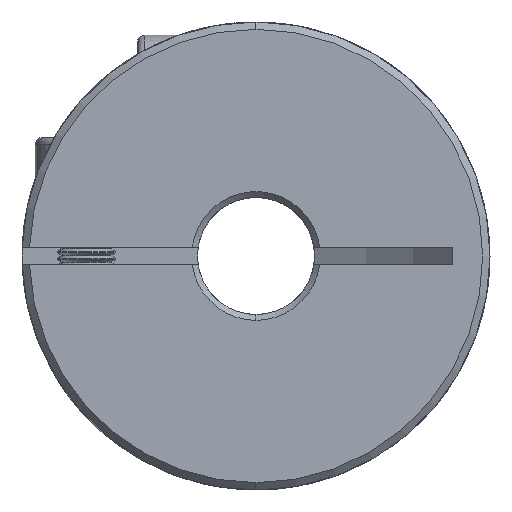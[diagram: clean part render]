
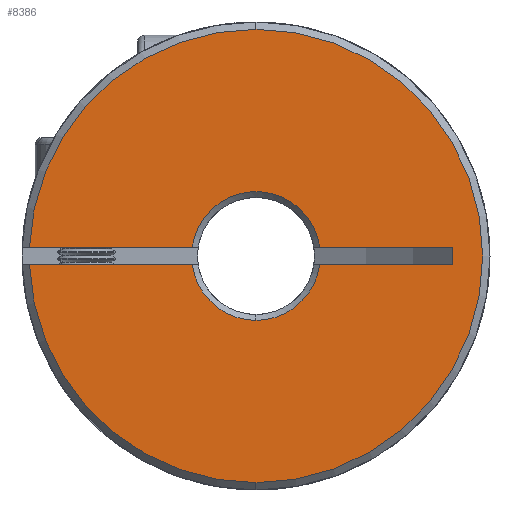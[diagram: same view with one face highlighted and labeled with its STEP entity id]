
A CAD part, front view. The second image highlights one B-rep face of the part: STEP entity #8386.
In plain terms, the highlighted planar face has unit normal (0, -1, 0).
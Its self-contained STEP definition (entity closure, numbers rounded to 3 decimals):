
#95 = VECTOR ( 'NONE', #9451, 1000. ) ;
#155 = CARTESIAN_POINT ( 'NONE',  ( 4.359, 0., 0.6 ) ) ;
#218 = LINE ( 'NONE', #6063, #95 ) ;
#245 = FACE_OUTER_BOUND ( 'NONE', #4812, .T. ) ;
#344 = AXIS2_PLACEMENT_3D ( 'NONE', #10908, #9160, #10826 ) ;
#388 = ORIENTED_EDGE ( 'NONE', *, *, #1886, .F. ) ;
#604 = VERTEX_POINT ( 'NONE', #6069 ) ;
#612 = CARTESIAN_POINT ( 'NONE',  ( 0., 0., 0. ) ) ;
#633 = DIRECTION ( 'NONE',  ( 1., 0., 0. ) ) ;
#771 = AXIS2_PLACEMENT_3D ( 'NONE', #10835, #7404, #8188 ) ;
#898 = VECTOR ( 'NONE', #633, 1000. ) ;
#946 = DIRECTION ( 'NONE',  ( 1., 0., 0. ) ) ;
#981 = CARTESIAN_POINT ( 'NONE',  ( 0., 0., 0. ) ) ;
#1239 = VERTEX_POINT ( 'NONE', #8898 ) ;
#1441 = VERTEX_POINT ( 'NONE', #9258 ) ;
#1520 = ORIENTED_EDGE ( 'NONE', *, *, #9105, .T. ) ;
#1551 = DIRECTION ( 'NONE',  ( 0., 1., 0. ) ) ;
#1584 = LINE ( 'NONE', #5815, #6137 ) ;
#1710 = CARTESIAN_POINT ( 'NONE',  ( 0., 0., 0. ) ) ;
#1806 = VERTEX_POINT ( 'NONE', #7912 ) ;
#1877 = AXIS2_PLACEMENT_3D ( 'NONE', #981, #9554, #4370 ) ;
#1886 = EDGE_CURVE ( 'NONE', #1239, #8943, #218, .T. ) ;
#2341 = DIRECTION ( 'NONE',  ( 0., 1., 0. ) ) ;
#2397 = EDGE_CURVE ( 'NONE', #8941, #604, #1584, .T. ) ;
#2425 = CIRCLE ( 'NONE', #344, 15.5 ) ;
#2440 = CARTESIAN_POINT ( 'NONE',  ( 0., 0., -4.4 ) ) ;
#2589 = ORIENTED_EDGE ( 'NONE', *, *, #10952, .T. ) ;
#2599 = VECTOR ( 'NONE', #5626, 1000. ) ;
#2618 = VECTOR ( 'NONE', #3604, 1000. ) ;
#2710 = VERTEX_POINT ( 'NONE', #4506 ) ;
#2857 = ORIENTED_EDGE ( 'NONE', *, *, #3459, .T. ) ;
#2956 = EDGE_CURVE ( 'NONE', #11012, #8943, #11150, .T. ) ;
#3176 = CARTESIAN_POINT ( 'NONE',  ( 0., 0., -15.5 ) ) ;
#3400 = DIRECTION ( 'NONE',  ( 0., -1., 0. ) ) ;
#3459 = EDGE_CURVE ( 'NONE', #1806, #10773, #7599, .T. ) ;
#3599 = EDGE_CURVE ( 'NONE', #6005, #1806, #5571, .T. ) ;
#3604 = DIRECTION ( 'NONE',  ( 1., 0., 0. ) ) ;
#3700 = ORIENTED_EDGE ( 'NONE', *, *, #5907, .T. ) ;
#4087 = DIRECTION ( 'NONE',  ( 0., 0., 1. ) ) ;
#4370 = DIRECTION ( 'NONE',  ( 0., 0., 1. ) ) ;
#4471 = ORIENTED_EDGE ( 'NONE', *, *, #5471, .T. ) ;
#4506 = CARTESIAN_POINT ( 'NONE',  ( 0., 0., 15.5 ) ) ;
#4600 = EDGE_CURVE ( 'NONE', #1441, #604, #5426, .T. ) ;
#4615 = CARTESIAN_POINT ( 'NONE',  ( -50., 0., -18.413 ) ) ;
#4761 = DIRECTION ( 'NONE',  ( 0., 1., 0. ) ) ;
#4792 = CARTESIAN_POINT ( 'NONE',  ( -50., 0., 0.6 ) ) ;
#4796 = AXIS2_PLACEMENT_3D ( 'NONE', #4615, #4761, #8046 ) ;
#4812 = EDGE_LOOP ( 'NONE', ( #388, #7021, #1520, #4471, #6796, #2857, #2589, #6742, #8837, #3700, #8772 ) ) ;
#5228 = CIRCLE ( 'NONE', #1877, 15.5 ) ;
#5426 = LINE ( 'NONE', #5595, #2599 ) ;
#5471 = EDGE_CURVE ( 'NONE', #2710, #6005, #9582, .T. ) ;
#5571 = LINE ( 'NONE', #6944, #2618 ) ;
#5595 = CARTESIAN_POINT ( 'NONE',  ( 13.436, 0., -0.6 ) ) ;
#5626 = DIRECTION ( 'NONE',  ( 0., 0., -1. ) ) ;
#5815 = CARTESIAN_POINT ( 'NONE',  ( -50., 0., -0.6 ) ) ;
#5907 = EDGE_CURVE ( 'NONE', #8941, #11012, #6738, .T. ) ;
#6005 = VERTEX_POINT ( 'NONE', #6712 ) ;
#6063 = CARTESIAN_POINT ( 'NONE',  ( -50., 0., -0.6 ) ) ;
#6069 = CARTESIAN_POINT ( 'NONE',  ( 13.436, 0., -0.6 ) ) ;
#6137 = VECTOR ( 'NONE', #946, 1000. ) ;
#6672 = CARTESIAN_POINT ( 'NONE',  ( 0., 0., 0. ) ) ;
#6712 = CARTESIAN_POINT ( 'NONE',  ( -15.488, 0., 0.6 ) ) ;
#6738 = CIRCLE ( 'NONE', #771, 4.4 ) ;
#6742 = ORIENTED_EDGE ( 'NONE', *, *, #4600, .T. ) ;
#6796 = ORIENTED_EDGE ( 'NONE', *, *, #3599, .T. ) ;
#6944 = CARTESIAN_POINT ( 'NONE',  ( -50., 0., 0.6 ) ) ;
#7021 = ORIENTED_EDGE ( 'NONE', *, *, #7882, .T. ) ;
#7035 = VERTEX_POINT ( 'NONE', #3176 ) ;
#7247 = PLANE ( 'NONE',  #4796 ) ;
#7404 = DIRECTION ( 'NONE',  ( 0., 1., 0. ) ) ;
#7584 = CARTESIAN_POINT ( 'NONE',  ( 4.359, 0., -0.6 ) ) ;
#7599 = CIRCLE ( 'NONE', #7781, 4.4 ) ;
#7781 = AXIS2_PLACEMENT_3D ( 'NONE', #6672, #1551, #10196 ) ;
#7882 = EDGE_CURVE ( 'NONE', #1239, #7035, #2425, .T. ) ;
#7912 = CARTESIAN_POINT ( 'NONE',  ( -4.359, 0., 0.6 ) ) ;
#8046 = DIRECTION ( 'NONE',  ( 0., 0., 1. ) ) ;
#8134 = AXIS2_PLACEMENT_3D ( 'NONE', #612, #2341, #4087 ) ;
#8188 = DIRECTION ( 'NONE',  ( 0., 0., 1. ) ) ;
#8386 = ADVANCED_FACE ( 'NONE', ( #245 ), #7247, .F. ) ;
#8481 = AXIS2_PLACEMENT_3D ( 'NONE', #1710, #3400, #10244 ) ;
#8772 = ORIENTED_EDGE ( 'NONE', *, *, #2956, .T. ) ;
#8837 = ORIENTED_EDGE ( 'NONE', *, *, #2397, .F. ) ;
#8898 = CARTESIAN_POINT ( 'NONE',  ( -15.488, 0., -0.6 ) ) ;
#8941 = VERTEX_POINT ( 'NONE', #7584 ) ;
#8943 = VERTEX_POINT ( 'NONE', #11076 ) ;
#8958 = LINE ( 'NONE', #4792, #898 ) ;
#9105 = EDGE_CURVE ( 'NONE', #7035, #2710, #5228, .T. ) ;
#9160 = DIRECTION ( 'NONE',  ( 0., -1., 0. ) ) ;
#9258 = CARTESIAN_POINT ( 'NONE',  ( 13.436, 0., 0.6 ) ) ;
#9451 = DIRECTION ( 'NONE',  ( 1., 0., 0. ) ) ;
#9554 = DIRECTION ( 'NONE',  ( 0., -1., 0. ) ) ;
#9582 = CIRCLE ( 'NONE', #8481, 15.5 ) ;
#10196 = DIRECTION ( 'NONE',  ( 0., 0., 1. ) ) ;
#10244 = DIRECTION ( 'NONE',  ( 0., 0., 1. ) ) ;
#10773 = VERTEX_POINT ( 'NONE', #155 ) ;
#10826 = DIRECTION ( 'NONE',  ( 0., 0., 1. ) ) ;
#10835 = CARTESIAN_POINT ( 'NONE',  ( 0., 0., 0. ) ) ;
#10908 = CARTESIAN_POINT ( 'NONE',  ( 0., 0., 0. ) ) ;
#10952 = EDGE_CURVE ( 'NONE', #10773, #1441, #8958, .T. ) ;
#11012 = VERTEX_POINT ( 'NONE', #2440 ) ;
#11076 = CARTESIAN_POINT ( 'NONE',  ( -4.359, 0., -0.6 ) ) ;
#11150 = CIRCLE ( 'NONE', #8134, 4.4 ) ;
